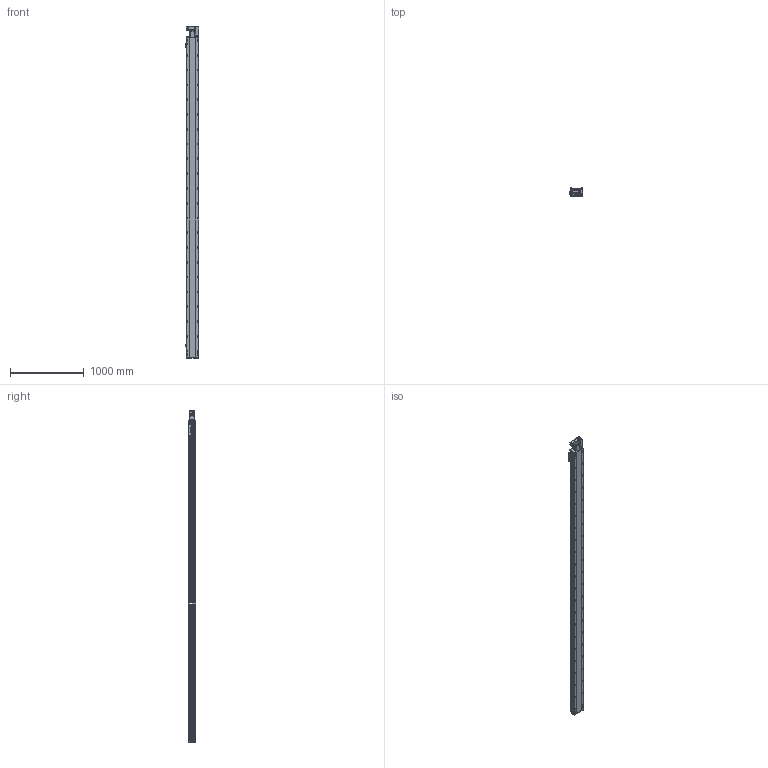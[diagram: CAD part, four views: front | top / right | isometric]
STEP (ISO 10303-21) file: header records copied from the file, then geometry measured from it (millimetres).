
FILE_DESCRIPTION (( 'STEP AP214' ), '1' );
FILE_NAME ('RTB17S-XX-4050-R-M40-C4.STEP', '2025-12-11T08:06:39', ( '' ), ( '' ), 'SwSTEP 2.0', 'SolidWorks 2018', '' );
FILE_SCHEMA (( 'AUTOMOTIVE_DESIGN' ));
Length unit declared in the file: millimetre
Products named in the file (14): 400W侜督萇儂^RTB17S-XX-XX-R-M40-C4; RTH13-BL-012覜茼え俋离^RTB17S-XX-XX-R-M40-C4; RTB17-R-011菁釱^RTB17S-XX-XX-R-M40-C4; RTB17S-L-007奻裔^RTB17S-XX-XX-R-M40-C4; RTB17S-L-001耜醱啣^RTB17S-XX-XX-R-M40-C4; RTB17S-L-004佪裝蹟譫蟀諉釱^RTB17S-XX-XX-R-M40-C4; RTB14-L-018P^RTB17S-R-々湍釱蚾饜-400W_RTB17S-XX-XX-R-M40-C4; RTB14-L-005P--轴承塑胶压盖^RTB17S-R-皮带座装配-400W_RTB17S-XX-XX-R-M40-C4; RTB17S-R-々湍釱蚾饜-400W^RTB17S-XX-XX-R-M40-C4; RTB14-L-017P^RTB17S-R-々湍釱蚾饜-400W_RTB17S-XX-XX-R-M40-C4; RTB17S-L-014-T20--々湍釱^RTB17S-R-々湍釱蚾饜-400W_RTB17S-XX-XX-R-M40-C4; OMRON EE-SX672 传感器^RTB17S-XX-XX-R-M40-C4; RTB14-L-008-M20--萇儂啣^RTB17S-R-々湍釱蚾饜-400W_RTB17S-XX-XX-R-M40-C4; RTB17S-XX-4050-R-M40-C4
Assembly tree (16 placements, depth 3):
  RTB17S-XX-4050-R-M40-C4
    RTB17-R-011菁釱^RTB17S-XX-XX-R-M40-C4
    RTB17S-L-007奻裔^RTB17S-XX-XX-R-M40-C4
    OMRON EE-SX672 传感器^RTB17S-XX-XX-R-M40-C4  x3
    RTB17S-L-001耜醱啣^RTB17S-XX-XX-R-M40-C4
    400W侜督萇儂^RTB17S-XX-XX-R-M40-C4
    RTB17S-L-004佪裝蹟譫蟀諉釱^RTB17S-XX-XX-R-M40-C4
    RTH13-BL-012覜茼え俋离^RTB17S-XX-XX-R-M40-C4
    RTB17S-R-々湍釱蚾饜-400W^RTB17S-XX-XX-R-M40-C4
      RTB17S-L-014-T20--々湍釱^RTB17S-R-々湍釱蚾饜-400W_RTB17S-XX-XX-R-M40-C4
      RTB14-L-005P--轴承塑胶压盖^RTB17S-R-皮带座装配-400W_RTB17S-XX-XX-R-M40-C4
      RTB14-L-008-M20--萇儂啣^RTB17S-R-々湍釱蚾饜-400W_RTB17S-XX-XX-R-M40-C4
      RTB14-L-017P^RTB17S-R-々湍釱蚾饜-400W_RTB17S-XX-XX-R-M40-C4  x2
      RTB14-L-018P^RTB17S-R-々湍釱蚾饜-400W_RTB17S-XX-XX-R-M40-C4
Bounding box: 183.5 x 108 x 4491 mm (x, y, z)
Volume: 37241582.1 mm3; surface area: 4212202.2 mm2
Topology: 15 solids, 15 shells, 2461 faces, 6951 edges, 4545 vertices
Faces by surface type: plane 1100, cylinder 913, bspline 301, cone 139, torus 8
Entity records: 74921 total; most frequent: CARTESIAN_POINT 21556, ORIENTED_EDGE 10746, DIRECTION 9836, EDGE_CURVE 5373, VERTEX_POINT 3533, AXIS2_PLACEMENT_3D 3463, LINE 2910, VECTOR 2910
